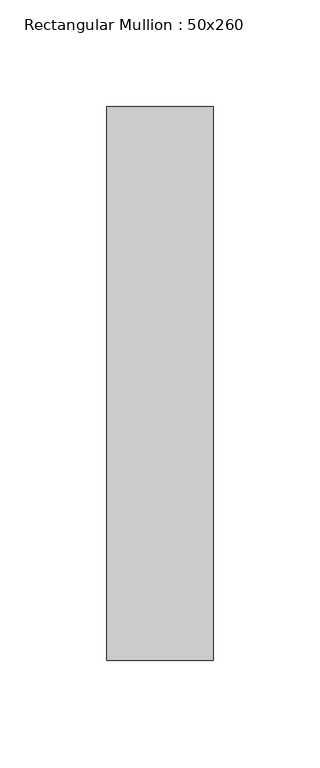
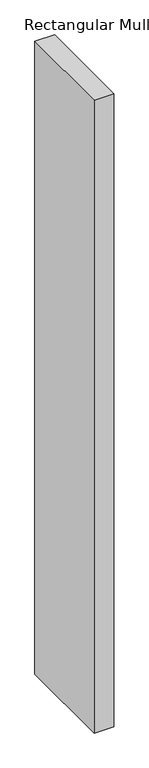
"""IFC4 building model written with IfcOpenShell, lengths in millimetres: member geometry, Rectangular Mullion : 50x260."""

from ifc_helpers import new_model, si_unit, frame, origin, place, context, project, spatial, polyline, outline, extrude, source, transform, mapped, element, save


def rectangular_mullion_50x260_42f0a501(model_context):
    return source(origin(), model_context, "Body", "SweptSolid", [
        extrude(outline(polyline([(0.0, 130.0), (0.0, -130.0), (-50.0, -130.0), (-50.0, 130.0), (0.0, 130.0)])), frame((0.0, 0.0, -1697.3972726), z_axis=(0.0, 0.0, 1.0), x_axis=(1.0, 0.0, 0.0)), (0.0, 0.0, 1.0), 1697.3972726),
    ])


if __name__ == "__main__":
    model = new_model("IFC4")
    model_context = context("Model", 3, world=origin())
    ifc_project = project(units=[si_unit("LENGTHUNIT", "METRE", prefix="MILLI")], contexts=[model_context])
    site = spatial("IfcSite", under=ifc_project)
    building = spatial("IfcBuilding", under=site)
    placement = place(None, origin())
    rectangular_mullion_50x260_shape = rectangular_mullion_50x260_42f0a501(model_context)
    element("IfcMember", 1, ObjectType="Rectangular Mullion : 50x260", at=placement, inside=building, context=model_context, shape_type="MappedRepresentation", body=[
        mapped(rectangular_mullion_50x260_shape, transform((0.0, 0.0, 0.0), x_axis=(1.0, 0.0, 0.0), y_axis=(0.0, 1.0, 0.0), z_axis=(0.0, 0.0, 1.0))),
    ])
    save(model, "model.ifc")
